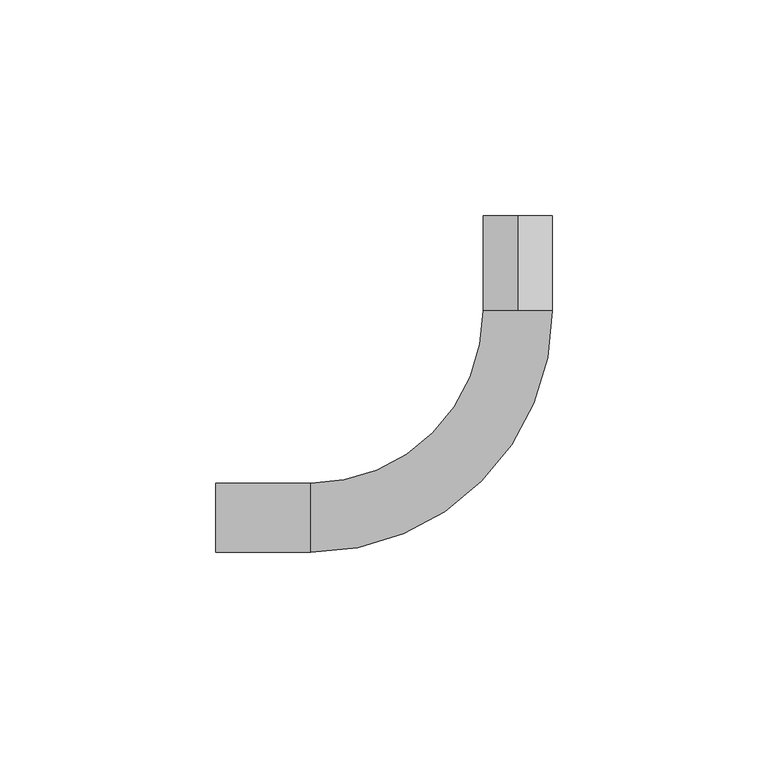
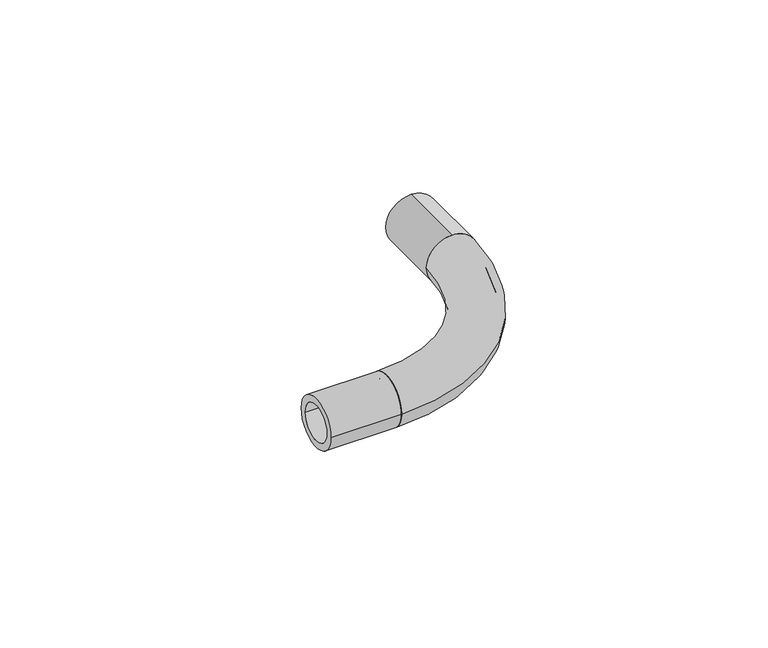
"""IFC4 building model written with IfcOpenShell, lengths in millimetres: pipe fitting geometry, REHAU_RAUTITAN_Pipe bend with former : REHAU_RAUTITAN_Pipe bend with former."""

from ifc_helpers import new_model, si_unit, point, frame, origin, origin_2d, place, context, project, spatial, circle_curve, ellipse_curve, trimmed, segment, composite_curve, outline, extrude, source, transform, mapped, element, save
from ifc_brep_helpers import plane_surface, revolved_surface, advanced_brep


def pipe_fitting_aa140833(model_context):
    return source(origin(), model_context, "Body", "SolidModel", [
        advanced_brep(
        [(-48.0, -8.0, 0.0), (-48.0, 8.0, 0.0), (-48.0, -5.8, 0.0), (-48.0, 5.8, 0.0), (8.0, 48.0, 0.0), (-8.0, 48.0, 0.0), (5.8, 48.0, 0.0), (-5.8, 48.0, 0.0)],
        [
            (0, 1, circle_curve(frame((-48.0, 0.0, 0.0), z_axis=(-1.0, 0.0, 0.0), x_axis=(0.0, 1.0, 0.0)), 8.0)),
            (1, 0, circle_curve(frame((-48.0, 0.0, 0.0), z_axis=(-1.0, 0.0, 0.0), x_axis=(0.0, 1.0, 0.0)), 8.0)),
            (2, 3, circle_curve(frame((-48.0, 0.0, 0.0), z_axis=(1.0, 0.0, 0.0), x_axis=(0.0, 1.0, 0.0)), 5.8)),
            (3, 2, circle_curve(frame((-48.0, 0.0, 0.0), z_axis=(1.0, 0.0, 0.0), x_axis=(0.0, 1.0, 0.0)), 5.8)),
            (4, 5, circle_curve(frame((0.0, 48.0, 0.0), z_axis=(0.0, 1.0, 0.0), x_axis=(-1.0, 0.0, 0.0)), 8.0)),
            (5, 4, circle_curve(frame((0.0, 48.0, 0.0), z_axis=(0.0, 1.0, 0.0), x_axis=(-1.0, 0.0, 0.0)), 8.0)),
            (6, 7, circle_curve(frame((0.0, 48.0, 0.0), z_axis=(0.0, -1.0, 0.0), x_axis=(-1.0, 0.0, 0.0)), 5.8)),
            (7, 6, circle_curve(frame((0.0, 48.0, 0.0), z_axis=(0.0, -1.0, 0.0), x_axis=(-1.0, 0.0, 0.0)), 5.8)),
            (5, 1, circle_curve(frame((-48.0, 48.0, 0.0), z_axis=(0.0, 0.0, -1.0), x_axis=(0.0, -1.0, 0.0)), 40.0)),
            (0, 4, circle_curve(frame((-48.0, 48.0, 0.0), z_axis=(0.0, 0.0, 1.0), x_axis=(0.0, -1.0, 0.0)), 56.0)),
            (7, 3, circle_curve(frame((-48.0, 48.0, 0.0), z_axis=(0.0, 0.0, -1.0), x_axis=(0.0, -1.0, 0.0)), 42.2)),
            (2, 6, circle_curve(frame((-48.0, 48.0, 0.0), z_axis=(0.0, 0.0, 1.0), x_axis=(0.0, -1.0, 0.0)), 53.8)),
        ],
        [
            plane_surface(frame((-48.0, 0.0, 0.0), z_axis=(-1.0, 0.0, 0.0), x_axis=(0.0, 0.0, 1.0))),
            plane_surface(frame((0.0, 48.0, 0.0), z_axis=(0.0, 1.0, 0.0), x_axis=(0.0, 0.0, 1.0))),
            revolved_surface(trimmed(ellipse_curve(frame((-48.0, 0.0, 0.0), z_axis=(-1.0, 0.0, 0.0), x_axis=(0.0, 1.0, 0.0)), 8.0, 8.0), [point((-48.0, -8.0, 0.0))], [point((-48.0, 8.0, 0.0))], True, "CARTESIAN"), (-48.0, 48.0, 0.0), (0.0, 0.0, 1.0)),
            revolved_surface(trimmed(ellipse_curve(frame((-48.0, 0.0, 0.0), z_axis=(-1.0, 0.0, 0.0), x_axis=(0.0, 1.0, 0.0)), 8.0, 8.0), [point((-48.0, 8.0, 0.0))], [point((-48.0, -8.0, 0.0))], True, "CARTESIAN"), (-48.0, 48.0, 0.0), (0.0, 0.0, 1.0)),
            revolved_surface(trimmed(ellipse_curve(frame((-48.0, 0.0, 0.0), z_axis=(1.0, 0.0, 0.0), x_axis=(0.0, 1.0, 0.0)), 5.8, 5.8), [point((-48.0, -5.8, 0.0))], [point((-48.0, 5.8, 0.0))], True, "CARTESIAN"), (-48.0, 48.0, 0.0), (0.0, 0.0, 1.0)),
            revolved_surface(trimmed(ellipse_curve(frame((-48.0, 0.0, 0.0), z_axis=(1.0, 0.0, 0.0), x_axis=(0.0, 1.0, 0.0)), 5.8, 5.8), [point((-48.0, 5.8, 0.0))], [point((-48.0, -5.8, 0.0))], True, "CARTESIAN"), (-48.0, 48.0, 0.0), (0.0, 0.0, 1.0)),
        ],
        [
            (0, [[1, 2], [3, 4]]),
            (1, [[5, 6], [7, 8]]),
            (2, [[9, -1, 10, -6]]),
            (3, [[-10, -2, -9, -5]]),
            (4, [[11, -3, 12, -8]]),
            (5, [[-12, -4, -11, -7]]),
        ],
    ),
        extrude(outline(composite_curve([segment(trimmed(circle_curve(origin_2d(), 8.0), [point((8.0, 0.0))], [point((-8.0, 0.0))], False, "CARTESIAN"), True, "CONTINUOUS"), segment(trimmed(circle_curve(origin_2d(), 8.0), [point((-8.0, 0.0))], [point((8.0, 0.0))], False, "CARTESIAN"), True, "CONTINUOUS")], self_intersect=False), holes=[composite_curve([segment(trimmed(circle_curve(origin_2d(), 5.8), [point((5.8, 0.0))], [point((-5.8, 0.0))], True, "CARTESIAN"), True, "CONTINUOUS"), segment(trimmed(circle_curve(origin_2d(), 5.8), [point((-5.8, 0.0))], [point((5.8, 0.0))], True, "CARTESIAN"), True, "CONTINUOUS")], self_intersect=False)]), frame((-70.0, 0.0, 0.0), z_axis=(1.0, 0.0, 0.0), x_axis=(0.0, 1.0, 0.0)), (0.0, 0.0, 1.0), 22.0),
        extrude(outline(composite_curve([segment(trimmed(circle_curve(origin_2d(), 8.0), [point((-8.0, 0.0))], [point((8.0, 0.0))], False, "CARTESIAN"), True, "CONTINUOUS"), segment(trimmed(circle_curve(origin_2d(), 8.0), [point((8.0, 0.0))], [point((-8.0, 0.0))], False, "CARTESIAN"), True, "CONTINUOUS")], self_intersect=False), holes=[composite_curve([segment(trimmed(circle_curve(origin_2d(), 5.8), [point((-5.8, 0.0))], [point((5.8, 0.0))], True, "CARTESIAN"), True, "CONTINUOUS"), segment(trimmed(circle_curve(origin_2d(), 5.8), [point((5.8, 0.0))], [point((-5.8, 0.0))], True, "CARTESIAN"), True, "CONTINUOUS")], self_intersect=False)]), frame((0.0, 48.0, 0.0), z_axis=(0.0, 1.0, 0.0), x_axis=(0.0, 0.0, 1.0)), (0.0, 0.0, 1.0), 22.0),
    ])


if __name__ == "__main__":
    model = new_model("IFC4")
    model_context = context("Model", 3, world=origin())
    ifc_project = project(units=[si_unit("LENGTHUNIT", "METRE", prefix="MILLI")], contexts=[model_context])
    site = spatial("IfcSite", under=ifc_project)
    building = spatial("IfcBuilding", under=site)
    placement = place(None, origin())
    pipe_fitting_shape = pipe_fitting_aa140833(model_context)
    element("IfcPipeFitting", 1, ObjectType="REHAU_RAUTITAN_Pipe bend with former : REHAU_RAUTITAN_Pipe bend with former", at=placement, inside=building, context=model_context, shape_type="MappedRepresentation", body=[
        mapped(pipe_fitting_shape, transform((0.0, 0.0, 0.0), x_axis=(1.0, 0.0, 0.0), y_axis=(0.0, 1.0, 0.0), z_axis=(0.0, 0.0, 1.0))),
    ])
    save(model, "model.ifc")
